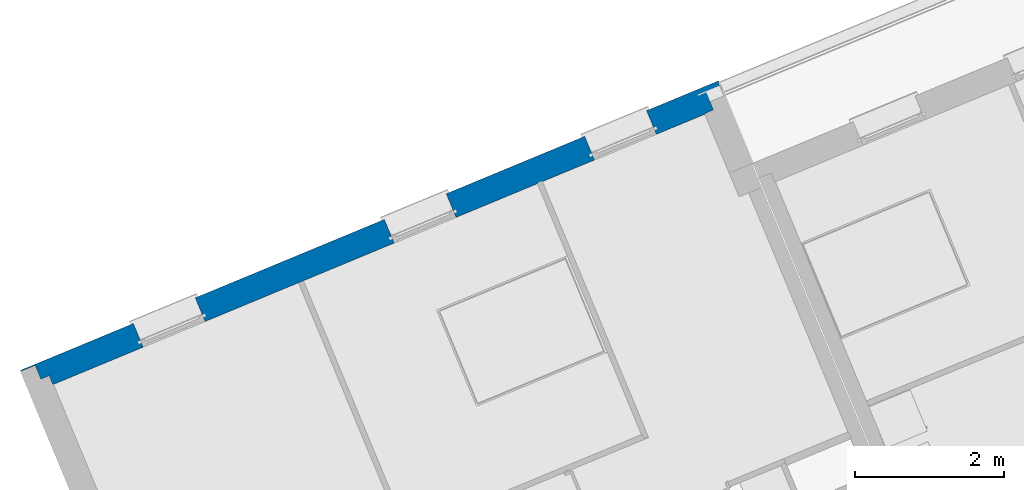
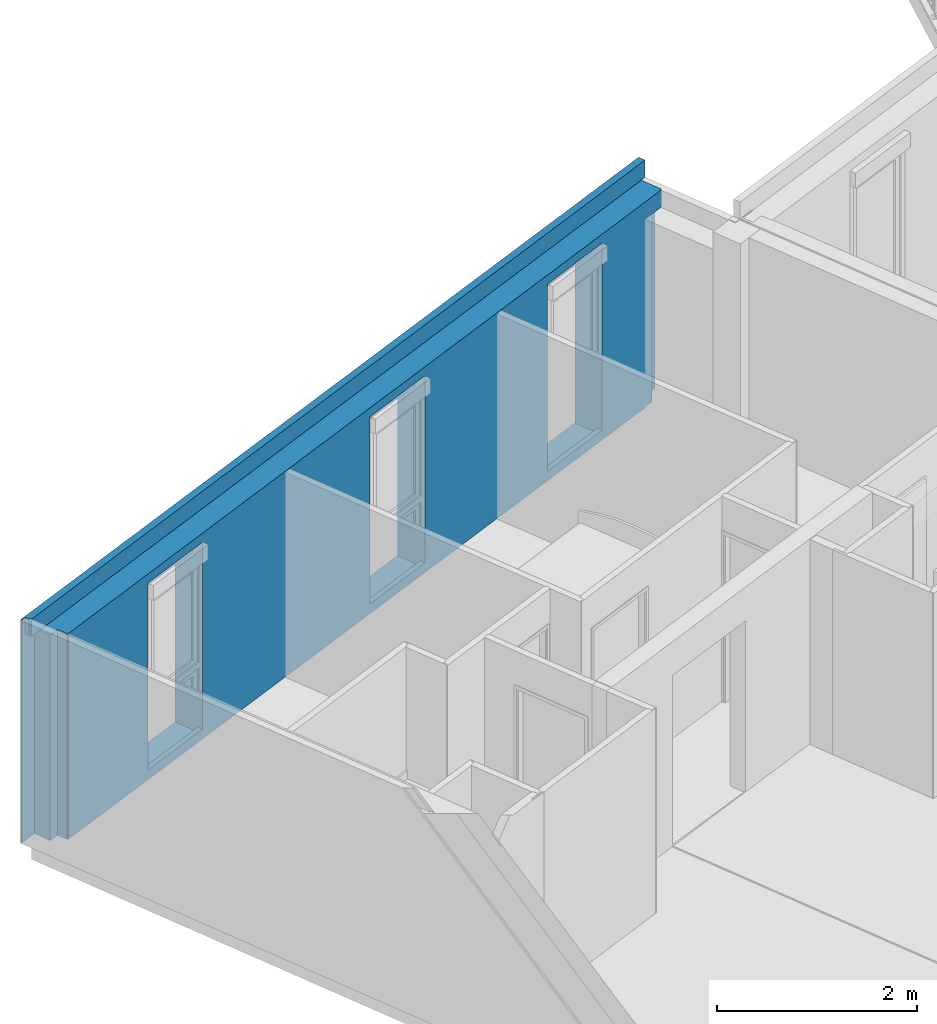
# One storey, part 7 of 91: 1 wall, 3 openings.
"""IFC2X3 building model written with IfcOpenShell, lengths in metres."""

from ifc_helpers import new_model, entity, si_unit, converted_unit, derived_unit, money_unit, direction, frame, origin_with_axes, place, context, subcontext, project, spatial, faceted_brep, material, material_list, type_object, element, save


model = new_model("IFC2X3")

# Units and contexts
model_context = context("Model", 3, precision=1e-05, world=origin_with_axes(), true_north=direction((0.0, 1.0)))
body_context = subcontext(model_context, "Body", "Model", "MODEL_VIEW")
ifc_project = project(units=[si_unit("LENGTHUNIT", "METRE"), si_unit("AREAUNIT", "SQUARE_METRE"), si_unit("VOLUMEUNIT", "CUBIC_METRE"), converted_unit("PLANEANGLEUNIT", "DEGREE", entity("IfcPlaneAngleMeasure", 0.0174532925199), si_unit("PLANEANGLEUNIT", "RADIAN"), dimensions=[0, 0, 0, 0, 0, 0, 0]), si_unit("SOLIDANGLEUNIT", "STERADIAN"), money_unit("EUR"), converted_unit("TIMEUNIT", "Year", entity("IfcTimeMeasure", 31556926.0), si_unit("TIMEUNIT", "SECOND"), dimensions=[0, 0, 1, 0, 0, 0, 0]), si_unit("MASSUNIT", "GRAM", prefix="KILO"), si_unit("THERMODYNAMICTEMPERATUREUNIT", "DEGREE_CELSIUS"), si_unit("LUMINOUSINTENSITYUNIT", "LUMEN"), si_unit("ENERGYUNIT", "JOULE", prefix="MEGA"), derived_unit("THERMALCONDUCTANCEUNIT", [(si_unit("POWERUNIT", "WATT"), 1), (si_unit("LENGTHUNIT", "METRE"), -1), (si_unit("THERMODYNAMICTEMPERATUREUNIT", "KELVIN"), -1)]), derived_unit("SPECIFICHEATCAPACITYUNIT", [(si_unit("ENERGYUNIT", "JOULE"), 1), (si_unit("MASSUNIT", "GRAM", prefix="KILO"), -1), (si_unit("THERMODYNAMICTEMPERATUREUNIT", "KELVIN"), -1)]), derived_unit("MASSDENSITYUNIT", [(si_unit("MASSUNIT", "GRAM", prefix="KILO"), 1), (si_unit("VOLUMEUNIT", "CUBIC_METRE"), -1)])], contexts=[model_context])

# Site, building, storey
site_placement = place(None, origin_with_axes())
site = spatial("IfcSite", under=ifc_project, at=site_placement, Name="Site", CompositionType="ELEMENT")
building_placement = place(site_placement, origin_with_axes())
building = spatial("IfcBuilding", under=site, at=building_placement, Name="Bâtiment", CompositionType="ELEMENT")
storey_placement = place(building_placement, frame((0.0, 0.0, 5.44), z_axis=(0.0, 0.0, 1.0), x_axis=(1.0, 0.0, 0.0)))
storey = spatial("IfcBuildingStorey", under=building, at=storey_placement, Name="R+2", CompositionType="ELEMENT", Elevation=5.44)

# Wall, openings
ifc_material_1 = material(Name="Finition ext - Crépis")
ifc_material_2 = material(Name="Béton cellulaire")
ifc_material_3 = material(Name="Mortier")
ifc_material_4 = material(Name="Isolation - Polystyrène expansé")
ifc_material_5 = material(Name="Bloc ELITHERM")
ifc_material_6 = material(Name="Isolation - Polystyrène extrudé")
ifc_material_7 = material(Name="Finition int - Plaque de plâtre")
ifc_material_list = material_list([ifc_material_1, ifc_material_2, ifc_material_3, ifc_material_4, ifc_material_5, ifc_material_6, ifc_material_7])
wall_type = type_object("IfcWallType", Name="Mur ALKERN + planelle 21 345 x 2720", PredefinedType="USERDEFINED")
wall_placement = place(storey_placement, frame((-35.4006367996, -17.9386027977, 0.0), z_axis=(0.0, 0.0, 1.0), x_axis=(0.923701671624, 0.383112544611, 0.0)))
wall = element("IfcWall", 1, at=wall_placement, inside=storey, type_object=wall_type, material=ifc_material_list, Name="Mue bloc ALKERN isolé", ObjectType="SOLIDWALL", context=body_context, shape_type="Brep", body=[
    faceted_brep([(9.10982057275, -1.81286594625e-08, 0.12), (9.10982057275, -0.0149999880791, 0.12), (9.10982057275, -0.0149999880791, 2.22), (9.10982057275, -1.81286594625e-08, 2.22), (9.10982057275, -0.0149999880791, 0.06), (9.10982057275, -1.97838847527e-08, 0.06), (0.0149999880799, -0.0149999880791, 0.0), (10.1580165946, -0.0149999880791, 0.0), (10.1580166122, -0.0149999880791, 2.29999999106), (10.0750166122, -0.0149999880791, 2.3), (10.0750166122, -0.0149999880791, 2.31), (10.0950166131, -0.0149999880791, 2.30999999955), (10.0950166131, -0.0149999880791, 2.51), (10.1580166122, -0.0149999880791, 2.51), (10.1580166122, -0.0149999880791, 2.71999999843), (0.0149999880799, -0.0149999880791, 2.72), (1.64829149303, -0.0149999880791, 0.06), (1.64829149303, -0.0149999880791, 0.12), (1.64829149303, -0.0149999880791, 2.22), (2.54829149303, -0.0149999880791, 2.22), (2.54829149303, -0.0149999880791, 0.12), (2.54829149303, -0.0149999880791, 0.06), (5.29728258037, -0.0149999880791, 0.06), (5.29728258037, -0.0149999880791, 0.12), (5.29728258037, -0.0149999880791, 2.22), (6.19728258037, -0.0149999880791, 2.22), (6.19728258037, -0.0149999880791, 0.12), (6.19728258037, -0.0149999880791, 0.06), (8.20982057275, -0.0149999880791, 0.06), (8.20982057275, -0.0149999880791, 0.12), (8.20982057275, -0.0149999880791, 2.22), (8.20982057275, -1.81286594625e-08, 2.22), (10.1580166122, -1.97838829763e-08, 2.71999999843), (10.1580166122, -1.97838847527e-08, 2.51), (10.0950166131, -1.97838829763e-08, 2.51), (10.0950166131, -1.97838829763e-08, 2.30999999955), (10.0750166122, -1.97838829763e-08, 2.31), (10.0750166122, -1.97838829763e-08, 2.3), (10.1580166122, -1.81286594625e-08, 2.29999999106), (10.1580165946, 0.0, 0.0), (0.0149999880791, 0.0, 0.0), (0.0149999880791, -2.21795914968e-10, 2.72), (2.54829149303, -1.9783886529e-08, 0.06), (2.54829149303, 0.0, 0.12), (2.54829149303, 0.0, 2.22), (1.64829149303, 0.0, 2.22), (1.64829149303, 0.0, 0.12), (1.64829149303, -1.9783886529e-08, 0.06), (6.19728258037, -2.21794138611e-10, 0.06), (6.19728258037, -1.97838847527e-08, 0.12), (6.19728258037, -1.97838847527e-08, 2.22), (5.29728258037, -1.97838847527e-08, 2.22), (5.29728258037, -1.97838847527e-08, 0.12), (5.29728258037, -2.21794138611e-10, 0.06), (8.20982057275, -1.81286594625e-08, 0.12), (8.20982057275, -1.97838847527e-08, 0.06)], [[[0, 1, 2, 3]], [[4, 1, 0, 5]], [[6, 7, 8, 9, 10, 11, 12, 13, 14, 15], [16, 17, 18, 19, 20, 21], [22, 23, 24, 25, 26, 27], [28, 29, 30, 2, 1, 4]], [[30, 31, 3, 2]], [[32, 33, 34, 35, 36, 37, 38, 39, 40, 41], [42, 43, 44, 45, 46, 47], [48, 49, 50, 51, 52, 53], [5, 0, 3, 31, 54, 55]], [[28, 4, 5, 55]], [[40, 39, 7, 6]], [[8, 7, 39, 38]], [[9, 8, 38, 37]], [[9, 37, 36, 10]], [[11, 10, 36, 35]], [[11, 35, 34, 12]], [[34, 33, 13, 12]], [[33, 32, 14, 13]], [[15, 14, 32, 41]], [[41, 40, 6, 15]], [[46, 17, 16, 47]], [[17, 46, 45, 18]], [[18, 45, 44, 19]], [[43, 20, 19, 44]], [[21, 20, 43, 42]], [[16, 21, 42, 47]], [[22, 53, 52, 23]], [[51, 24, 23, 52]], [[50, 25, 24, 51]], [[25, 50, 49, 26]], [[49, 48, 27, 26]], [[48, 53, 22, 27]], [[54, 29, 28, 55]], [[29, 54, 31, 30]]]),
    faceted_brep([(0.0629999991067, -0.015, 2.72), (0.0629999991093, -0.0629999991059, 2.72), (10.1580166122, -0.0629999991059, 2.71999999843), (10.1580166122, -0.015, 2.71999999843), (0.0629999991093, -0.0629999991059, 2.51999999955), (0.0629999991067, -0.015, 2.51999999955), (10.1580166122, -0.0629999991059, 2.51999999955), (10.1580166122, -0.015, 2.51999999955)], [[[0, 1, 2, 3]], [[4, 1, 0, 5]], [[1, 4, 6, 2]], [[7, 3, 2, 6]], [[5, 0, 3, 7]], [[4, 5, 7, 6]]]),
    faceted_brep([(0.0830000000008, -0.015, 2.52), (0.0830000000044, -0.0830000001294, 2.52), (10.1580166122, -0.0830000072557, 2.51999998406), (10.1580166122, -0.015, 2.52), (0.0830000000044, -0.0830000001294, 2.51), (0.0830000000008, -0.015, 2.51), (10.1580166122, -0.0830000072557, 2.51000000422), (10.1580166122, -0.015, 2.51000000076)], [[[0, 1, 2, 3]], [[4, 1, 0, 5]], [[1, 4, 6, 2]], [[7, 3, 2, 6]], [[5, 0, 3, 7]], [[4, 5, 7, 6]]]),
    faceted_brep([(10.1580166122, -0.0630000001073, 2.71999999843), (0.0830000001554, -0.0630000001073, 2.72), (0.0830000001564, -0.0830000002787, 2.72), (10.1580166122, -0.0830000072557, 2.71999999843), (10.1580166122, -0.0630000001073, 2.51999999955), (0.0830000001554, -0.0630000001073, 2.51999999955), (0.0830000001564, -0.0830000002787, 2.51999999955), (10.1580166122, -0.0830000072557, 2.51999998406)], [[[0, 1, 2, 3]], [[4, 5, 1, 0]], [[5, 6, 2, 1]], [[3, 2, 6, 7]], [[7, 4, 0, 3]], [[7, 6, 5, 4]]]),
    faceted_brep([(9.10982057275, -0.015, 0.12), (9.10982057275, -0.015, 0.06), (9.10982057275, -0.214999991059, 0.06), (9.10982057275, -0.214999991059, 0.12), (9.10982057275, -0.214999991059, 2.22), (9.10982057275, -0.015, 2.22), (0.21499999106, -0.015, 0.0), (0.21499999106, -0.015, 2.50999999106), (10.0950166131, -0.015, 2.51), (10.0950166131, -0.015, 2.30999999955), (10.0750166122, -0.015, 2.31), (10.0750166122, -0.015, 2.3), (10.1430166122, -0.015, 2.3), (10.1430166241, -0.015, 0.0), (2.54829149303, -0.015, 0.06), (2.54829149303, -0.015, 0.12), (2.54829149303, -0.015, 2.22), (1.64829149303, -0.015, 2.22), (1.64829149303, -0.015, 0.12), (1.64829149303, -0.015, 0.06), (6.19728258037, -0.015, 0.06), (6.19728258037, -0.015, 0.12), (6.19728258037, -0.015, 2.22), (5.29728258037, -0.015, 2.22), (5.29728258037, -0.015, 0.12), (5.29728258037, -0.015, 0.06), (8.20982057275, -0.015, 2.22), (8.20982057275, -0.015, 0.12), (8.20982057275, -0.015, 0.06), (8.20982057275, -0.214999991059, 0.06), (10.0750166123, -0.214999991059, 2.3), (10.0750166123, -0.214999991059, 2.31), (10.0950166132, -0.214999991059, 2.30999999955), (10.0950166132, -0.214999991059, 2.51), (0.214999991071, -0.214999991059, 2.50999999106), (0.214999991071, -0.214999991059, 0.0), (10.1430166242, -0.214999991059, 0.0), (10.1430166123, -0.214999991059, 2.3), (1.64829149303, -0.214999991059, 0.06), (1.64829149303, -0.214999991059, 0.12), (1.64829149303, -0.214999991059, 2.22), (2.54829149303, -0.214999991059, 2.22), (2.54829149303, -0.214999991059, 0.12), (2.54829149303, -0.214999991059, 0.06), (5.29728258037, -0.214999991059, 0.06), (5.29728258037, -0.214999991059, 0.12), (5.29728258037, -0.214999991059, 2.22), (6.19728258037, -0.214999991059, 2.22), (6.19728258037, -0.214999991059, 0.12), (6.19728258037, -0.214999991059, 0.06), (8.20982057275, -0.214999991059, 0.12), (8.20982057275, -0.214999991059, 2.22), (0.214999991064, -0.0829999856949, 2.50999999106), (10.0950166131, -0.0829999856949, 2.51)], [[[0, 1, 2, 3, 4, 5]], [[6, 7, 8, 9, 10, 11, 12, 13], [14, 15, 16, 17, 18, 19], [20, 21, 22, 23, 24, 25], [1, 0, 5, 26, 27, 28]], [[29, 2, 1, 28]], [[30, 31, 32, 33, 34, 35, 36, 37], [38, 39, 40, 41, 42, 43], [44, 45, 46, 47, 48, 49], [29, 50, 51, 4, 3, 2]], [[51, 26, 5, 4]], [[52, 7, 6, 35, 34]], [[7, 52, 53, 8]], [[32, 9, 8, 53, 33]], [[31, 10, 9, 32]], [[11, 10, 31, 30]], [[12, 11, 30, 37]], [[36, 13, 12, 37]], [[35, 6, 13, 36]], [[15, 14, 43, 42, 41, 16]], [[40, 17, 16, 41]], [[39, 38, 19, 18, 17, 40]], [[38, 43, 14, 19]], [[21, 20, 49, 48, 47, 22]], [[22, 47, 46, 23]], [[45, 44, 25, 24, 23, 46]], [[20, 25, 44, 49]], [[50, 29, 28, 27, 26, 51]], [[52, 34, 33, 53]]]),
    faceted_brep([(9.10982057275, -0.215000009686, 0.12), (9.10982057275, -0.215000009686, 0.06), (9.10982057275, -0.286, 0.06), (9.10982057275, -0.286, 0.12), (9.10982057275, -0.335000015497, 0.12), (9.10982057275, -0.335000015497, 2.22), (9.10982057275, -0.335000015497, 2.4), (9.10982057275, -0.215, 2.4), (9.10982057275, -0.215, 2.22), (10.0750166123, -0.215000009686, 2.3), (9.94301662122, -0.215000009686, 2.29999999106), (9.94301662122, -0.215000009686, 0.0), (0.335000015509, -0.215000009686, 0.0), (0.335000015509, -0.215000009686, 2.51), (10.0950166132, -0.215000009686, 2.51), (10.0950166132, -0.215000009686, 2.30999999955), (10.0750166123, -0.215000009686, 2.31), (2.54829149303, -0.215000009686, 0.06), (2.54829149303, -0.215000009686, 0.12), (2.54829149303, -0.215, 2.22), (2.54829149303, -0.215, 2.4), (1.64829149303, -0.215, 2.4), (1.64829149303, -0.215, 2.22), (1.64829149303, -0.215000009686, 0.12), (1.64829149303, -0.215000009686, 0.06), (5.29728258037, -0.215, 2.4), (5.29728258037, -0.215, 2.22), (5.29728258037, -0.215000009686, 0.12), (5.29728258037, -0.215000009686, 0.06), (6.19728258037, -0.215000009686, 0.06), (6.19728258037, -0.215000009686, 0.12), (6.19728258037, -0.215, 2.22), (6.19728258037, -0.215, 2.4), (8.20982057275, -0.215, 2.4), (8.20982057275, -0.215, 2.22), (8.20982057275, -0.215000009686, 0.12), (8.20982057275, -0.215000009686, 0.06), (8.20982057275, -0.286, 0.06), (8.20982057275, -0.286, 0.12), (8.20982057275, -0.335000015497, 0.12), (0.335000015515, -0.335000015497, 0.0), (9.94301662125, -0.335000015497, 0.0), (9.94301662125, -0.335000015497, 2.29999999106), (10.0750166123, -0.335000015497, 2.3), (10.0750166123, -0.335000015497, 2.31), (10.0950166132, -0.335000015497, 2.30999999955), (10.0950166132, -0.335000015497, 2.51), (0.335000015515, -0.335000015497, 2.51), (2.54829149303, -0.335000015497, 2.22), (2.54829149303, -0.335000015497, 0.12), (1.64829149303, -0.335000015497, 0.12), (1.64829149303, -0.335000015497, 2.22), (1.64829149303, -0.335000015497, 2.4), (2.54829149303, -0.335000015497, 2.4), (6.19728258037, -0.335000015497, 2.22), (6.19728258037, -0.335000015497, 0.12), (5.29728258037, -0.335000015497, 0.12), (5.29728258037, -0.335000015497, 2.22), (5.29728258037, -0.335000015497, 2.4), (6.19728258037, -0.335000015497, 2.4), (8.20982057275, -0.335000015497, 2.22), (8.20982057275, -0.335000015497, 2.4), (2.54829149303, -0.286, 0.12), (2.54829149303, -0.286, 0.06), (1.64829149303, -0.286, 0.12), (1.64829149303, -0.286, 0.06), (5.29728258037, -0.286, 0.12), (5.29728258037, -0.286, 0.06), (6.19728258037, -0.286, 0.06), (6.19728258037, -0.286, 0.12)], [[[0, 1, 2, 3, 4, 5, 6, 7, 8]], [[9, 10, 11, 12, 13, 14, 15, 16], [17, 18, 19, 20, 21, 22, 23, 24], [25, 26, 27, 28, 29, 30, 31, 32], [1, 0, 8, 7, 33, 34, 35, 36]], [[1, 36, 37, 2]], [[38, 3, 2, 37]], [[3, 38, 39, 4]], [[40, 41, 42, 43, 44, 45, 46, 47], [48, 49, 50, 51, 52, 53], [54, 55, 56, 57, 58, 59], [5, 4, 39, 60, 61, 6]], [[61, 33, 7, 6]], [[10, 9, 43, 42]], [[10, 42, 41, 11]], [[12, 11, 41, 40]], [[12, 40, 47, 13]], [[47, 46, 14, 13]], [[15, 14, 46, 45]], [[16, 15, 45, 44]], [[16, 44, 43, 9]], [[62, 49, 48, 53, 20, 19, 18, 17, 63]], [[52, 21, 20, 53]], [[23, 22, 21, 52, 51, 50, 64, 65, 24]], [[17, 24, 65, 63]], [[58, 57, 56, 66, 67, 28, 27, 26, 25]], [[29, 28, 67, 68]], [[59, 32, 31, 30, 29, 68, 69, 55, 54]], [[58, 25, 32, 59]], [[38, 37, 36, 35, 34, 33, 61, 60, 39]], [[62, 64, 50, 49]], [[69, 66, 56, 55]], [[64, 62, 63, 65]], [[66, 69, 68, 67]]]),
    faceted_brep([(0.344999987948, -0.34499998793, 0.0), (9.82301659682, -0.34499998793, 0.0), (9.82301659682, -0.34499998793, 2.3), (9.94301660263, -0.34499998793, 2.3), (10.0750166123, -0.34499998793, 2.3), (10.0750166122, -0.34499998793, 2.51), (0.344999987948, -0.34499998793, 2.51), (1.64829149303, -0.34499998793, 2.22), (1.64829149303, -0.34499998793, 2.4), (2.54829149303, -0.34499998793, 2.4), (2.54829149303, -0.34499998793, 2.22), (2.54829149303, -0.34499998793, 0.12), (1.64829149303, -0.34499998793, 0.12), (5.29728258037, -0.34499998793, 2.22), (5.29728258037, -0.34499998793, 2.4), (6.19728258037, -0.34499998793, 2.4), (6.19728258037, -0.34499998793, 2.22), (6.19728258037, -0.34499998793, 0.12), (5.29728258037, -0.34499998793, 0.12), (8.20982057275, -0.34499998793, 2.22), (8.20982057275, -0.34499998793, 2.4), (9.10982057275, -0.34499998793, 2.4), (9.10982057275, -0.34499998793, 2.22), (9.10982057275, -0.34499998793, 0.12), (8.20982057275, -0.34499998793, 0.12), (0.344999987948, -0.335000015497, 0.0), (9.82301659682, -0.335000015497, 0.0), (9.82301659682, -0.335000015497, 2.3), (9.94301660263, -0.335000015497, 2.3), (10.0750166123, -0.335000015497, 2.3), (10.0750166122, -0.335000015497, 2.51), (0.344999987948, -0.335000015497, 2.51), (1.64829149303, -0.335000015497, 2.22), (1.64829149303, -0.335000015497, 2.4), (1.64829149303, -0.335000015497, 0.12), (2.54829149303, -0.335000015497, 2.4), (2.54829149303, -0.335000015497, 2.22), (2.54829149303, -0.335000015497, 0.12), (5.29728258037, -0.335000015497, 2.22), (5.29728258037, -0.335000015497, 2.4), (5.29728258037, -0.335000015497, 0.12), (6.19728258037, -0.335000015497, 2.4), (6.19728258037, -0.335000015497, 2.22), (6.19728258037, -0.335000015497, 0.12), (8.20982057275, -0.335000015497, 2.22), (8.20982057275, -0.335000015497, 2.4), (8.20982057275, -0.335000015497, 0.12), (9.10982057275, -0.335000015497, 2.4), (9.10982057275, -0.335000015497, 2.22), (9.10982057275, -0.335000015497, 0.12)], [[[0, 1, 2, 3, 4, 5, 6], [7, 8, 9, 10, 11, 12], [13, 14, 15, 16, 17, 18], [19, 20, 21, 22, 23, 24]], [[1, 0, 25, 26]], [[1, 26, 27, 2]], [[3, 2, 27, 28]], [[4, 3, 28, 29]], [[5, 4, 29, 30]], [[30, 31, 6, 5]], [[6, 31, 25, 0]], [[32, 33, 8, 7, 12, 34]], [[9, 8, 33, 35]], [[10, 9, 35, 36, 37, 11]], [[11, 37, 34, 12]], [[38, 39, 14, 13, 18, 40]], [[39, 41, 15, 14]], [[16, 15, 41, 42, 43, 17]], [[40, 18, 17, 43]], [[44, 45, 20, 19, 24, 46]], [[21, 20, 45, 47]], [[22, 21, 47, 48, 49, 23]], [[23, 49, 46, 24]], [[28, 27, 26, 25, 31, 30, 29], [33, 32, 34, 37, 36, 35], [39, 38, 40, 43, 42, 41], [45, 44, 46, 49, 48, 47]]]),
])
opening_1_placement = place(wall_placement, frame((2.09829149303, 0.0, 0.12), z_axis=(0.0, 0.0, 1.0), x_axis=(1.0, 0.0, 0.0)))
element("IfcOpeningElement", 2, at=opening_1_placement, cuts=wall, Name="MEN 85", context=body_context, shape_type="Brep", body=[
    faceted_brep([(-0.45, -0.245, 0.0), (0.45, -0.245, 0.0), (0.45, -0.83499998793, 0.0), (-0.45, -0.83499998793, 0.0), (-0.45, -0.245, 2.1), (0.45, -0.245, 2.1), (0.45, -0.83499998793, 2.1), (-0.45, -0.83499998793, 2.1)], [[[0, 1, 2, 3]], [[0, 4, 5, 1]], [[1, 5, 6, 2]], [[3, 2, 6, 7]], [[4, 0, 3, 7]], [[5, 4, 7, 6]]]),
    faceted_brep([(-0.45, -0.245, 0.0), (-0.45, -0.245, 2.1), (-0.45, 0.34499998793, 2.1), (-0.45, 0.34499998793, 0.0), (0.45, -0.245, 0.0), (0.45, -0.245, 2.1), (0.45, 0.34499998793, 2.1), (0.45, 0.34499998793, 0.0)], [[[0, 1, 2, 3]], [[0, 4, 5, 1]], [[1, 5, 6, 2]], [[3, 2, 6, 7]], [[4, 0, 3, 7]], [[5, 4, 7, 6]]]),
    faceted_brep([(-0.45, -0.245, 0.0), (-0.45, -0.245, 2.1), (-0.45, 0.34499998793, 2.1), (-0.45, 0.34499998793, 0.0), (0.45, -0.245, 0.0), (0.45, -0.245, 2.1), (0.45, 0.34499998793, 2.1), (0.45, 0.34499998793, 0.0)], [[[0, 1, 2, 3]], [[0, 4, 5, 1]], [[1, 5, 6, 2]], [[3, 2, 6, 7]], [[4, 0, 3, 7]], [[5, 4, 7, 6]]]),
    faceted_brep([(-0.45, -0.215, 2.1), (0.45, -0.215, 2.1), (0.45, -0.80499998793, 2.1), (-0.45, -0.80499998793, 2.1), (-0.45, -0.215, 2.28), (0.45, -0.215, 2.28), (0.45, -0.80499998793, 2.28), (-0.45, -0.80499998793, 2.28)], [[[0, 1, 2, 3]], [[0, 4, 5, 1]], [[1, 5, 6, 2]], [[3, 2, 6, 7]], [[4, 0, 3, 7]], [[5, 4, 7, 6]]]),
    faceted_brep([(-0.45, -0.286, 0.0), (0.45, -0.286, 0.0), (0.45, 0.30399998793, 0.0), (-0.45, 0.30399998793, 0.0), (-0.45, -0.286, -0.06), (0.45, -0.286, -0.06), (0.45, 0.30399998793, -0.06), (-0.45, 0.30399998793, -0.06)], [[[0, 1, 2, 3]], [[0, 4, 5, 1]], [[1, 5, 6, 2]], [[3, 2, 6, 7]], [[4, 0, 3, 7]], [[5, 4, 7, 6]]]),
])
opening_2_placement = place(wall_placement, frame((5.74728258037, 0.0, 0.12), z_axis=(0.0, 0.0, 1.0), x_axis=(1.0, 0.0, 0.0)))
element("IfcOpeningElement", 3, at=opening_2_placement, cuts=wall, Name="MEN 84", context=body_context, shape_type="Brep", body=[
    faceted_brep([(0.45, -0.83499998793, 0.0), (-0.45, -0.83499998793, 0.0), (-0.45, -0.245, 0.0), (0.45, -0.245, 0.0), (0.45, -0.83499998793, 2.1), (-0.45, -0.83499998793, 2.1), (-0.45, -0.245, 2.1), (0.45, -0.245, 2.1)], [[[0, 1, 2, 3]], [[0, 4, 5, 1]], [[1, 5, 6, 2]], [[3, 2, 6, 7]], [[4, 0, 3, 7]], [[5, 4, 7, 6]]]),
    faceted_brep([(0.45, 0.34499998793, 0.0), (0.45, 0.34499998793, 2.1), (0.45, -0.245, 2.1), (0.45, -0.245, 0.0), (-0.45, 0.34499998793, 0.0), (-0.45, 0.34499998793, 2.1), (-0.45, -0.245, 2.1), (-0.45, -0.245, 0.0)], [[[0, 1, 2, 3]], [[0, 4, 5, 1]], [[1, 5, 6, 2]], [[3, 2, 6, 7]], [[4, 0, 3, 7]], [[5, 4, 7, 6]]]),
    faceted_brep([(0.45, 0.34499998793, 0.0), (0.45, 0.34499998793, 2.1), (0.45, -0.245, 2.1), (0.45, -0.245, 0.0), (-0.45, 0.34499998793, 0.0), (-0.45, 0.34499998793, 2.1), (-0.45, -0.245, 2.1), (-0.45, -0.245, 0.0)], [[[0, 1, 2, 3]], [[0, 4, 5, 1]], [[1, 5, 6, 2]], [[3, 2, 6, 7]], [[4, 0, 3, 7]], [[5, 4, 7, 6]]]),
    faceted_brep([(0.45, -0.80499998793, 2.1), (-0.45, -0.80499998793, 2.1), (-0.45, -0.215, 2.1), (0.45, -0.215, 2.1), (0.45, -0.80499998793, 2.28), (-0.45, -0.80499998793, 2.28), (-0.45, -0.215, 2.28), (0.45, -0.215, 2.28)], [[[0, 1, 2, 3]], [[0, 4, 5, 1]], [[1, 5, 6, 2]], [[3, 2, 6, 7]], [[4, 0, 3, 7]], [[5, 4, 7, 6]]]),
    faceted_brep([(0.45, 0.30399998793, 0.0), (-0.45, 0.30399998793, 0.0), (-0.45, -0.286, 0.0), (0.45, -0.286, 0.0), (0.45, 0.30399998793, -0.06), (-0.45, 0.30399998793, -0.06), (-0.45, -0.286, -0.06), (0.45, -0.286, -0.06)], [[[0, 1, 2, 3]], [[0, 4, 5, 1]], [[1, 5, 6, 2]], [[3, 2, 6, 7]], [[4, 0, 3, 7]], [[5, 4, 7, 6]]]),
])
opening_3_placement = place(wall_placement, frame((8.65982057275, 0.0, 0.12), z_axis=(0.0, 0.0, 1.0), x_axis=(1.0, 0.0, 0.0)))
element("IfcOpeningElement", 4, at=opening_3_placement, cuts=wall, Name="MEN 83", context=body_context, shape_type="Brep", body=[
    faceted_brep([(0.45, -0.83499998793, 0.0), (-0.45, -0.83499998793, 0.0), (-0.45, -0.245, 0.0), (0.45, -0.245, 0.0), (0.45, -0.83499998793, 2.1), (-0.45, -0.83499998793, 2.1), (-0.45, -0.245, 2.1), (0.45, -0.245, 2.1)], [[[0, 1, 2, 3]], [[0, 4, 5, 1]], [[1, 5, 6, 2]], [[3, 2, 6, 7]], [[4, 0, 3, 7]], [[5, 4, 7, 6]]]),
    faceted_brep([(0.45, 0.34499998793, 0.0), (0.45, 0.34499998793, 2.1), (0.45, -0.245, 2.1), (0.45, -0.245, 0.0), (-0.45, 0.34499998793, 0.0), (-0.45, 0.34499998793, 2.1), (-0.45, -0.245, 2.1), (-0.45, -0.245, 0.0)], [[[0, 1, 2, 3]], [[0, 4, 5, 1]], [[1, 5, 6, 2]], [[3, 2, 6, 7]], [[4, 0, 3, 7]], [[5, 4, 7, 6]]]),
    faceted_brep([(0.45, 0.34499998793, 0.0), (0.45, 0.34499998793, 2.1), (0.45, -0.245, 2.1), (0.45, -0.245, 0.0), (-0.45, 0.34499998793, 0.0), (-0.45, 0.34499998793, 2.1), (-0.45, -0.245, 2.1), (-0.45, -0.245, 0.0)], [[[0, 1, 2, 3]], [[0, 4, 5, 1]], [[1, 5, 6, 2]], [[3, 2, 6, 7]], [[4, 0, 3, 7]], [[5, 4, 7, 6]]]),
    faceted_brep([(0.45, -0.80499998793, 2.1), (-0.45, -0.80499998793, 2.1), (-0.45, -0.215, 2.1), (0.45, -0.215, 2.1), (0.45, -0.80499998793, 2.28), (-0.45, -0.80499998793, 2.28), (-0.45, -0.215, 2.28), (0.45, -0.215, 2.28)], [[[0, 1, 2, 3]], [[0, 4, 5, 1]], [[1, 5, 6, 2]], [[3, 2, 6, 7]], [[4, 0, 3, 7]], [[5, 4, 7, 6]]]),
    faceted_brep([(0.45, 0.30399998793, 0.0), (-0.45, 0.30399998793, 0.0), (-0.45, -0.286, 0.0), (0.45, -0.286, 0.0), (0.45, 0.30399998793, -0.06), (-0.45, 0.30399998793, -0.06), (-0.45, -0.286, -0.06), (0.45, -0.286, -0.06)], [[[0, 1, 2, 3]], [[0, 4, 5, 1]], [[1, 5, 6, 2]], [[3, 2, 6, 7]], [[4, 0, 3, 7]], [[5, 4, 7, 6]]]),
])

save(model, "model.ifc")
